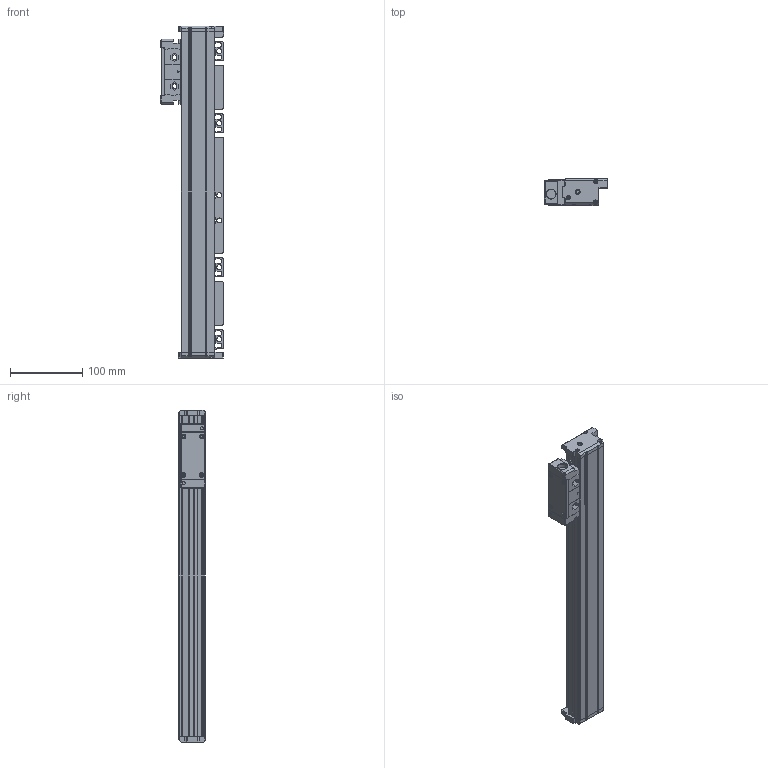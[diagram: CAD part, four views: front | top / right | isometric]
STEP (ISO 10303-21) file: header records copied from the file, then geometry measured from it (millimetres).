
FILE_DESCRIPTION(/* description */ (''),/* implementation_level */ '2;1');
FILE_NAME(/* name */ 'JC21A-340-1.stp',/* time_stamp */ '2023-12-21T16:34:46+08:00',/* author */ (''),/* organization */ (''),/* preprocessor_version */ 'ST-DEVELOPER v14',/* originating_system */ 'SIEMENS PLM Software NX 8.0',/* authorisation */ '');
FILE_SCHEMA (('CONFIG_CONTROL_DESIGN'));
Length unit declared in the file: millimetre
Products named in the file (1): JC21A-340-1
Bounding box: 87.5 x 37 x 461 mm (x, y, z)
Volume: 784260.6 mm3; surface area: 144327.7 mm2
Topology: 4 solids, 6 shells, 513 faces, 1450 edges, 957 vertices
Faces by surface type: plane 316, cylinder 165, cone 22, bspline 8, extrusion 2
Full cylindrical faces by diameter (mm): 2.5 x12, 3.3 x6, 3.7 x4, 4.2 x4, 5 x2, 6 x6, 6.6 x2, 6.8 x6, 7 x2, 13.2 x2
Entity records: 16689 total; most frequent: CARTESIAN_POINT 3391, ORIENTED_EDGE 2720, DIRECTION 2704, EDGE_CURVE 1360, VERTEX_POINT 935, VECTOR 926, LINE 924, AXIS2_PLACEMENT_3D 889
